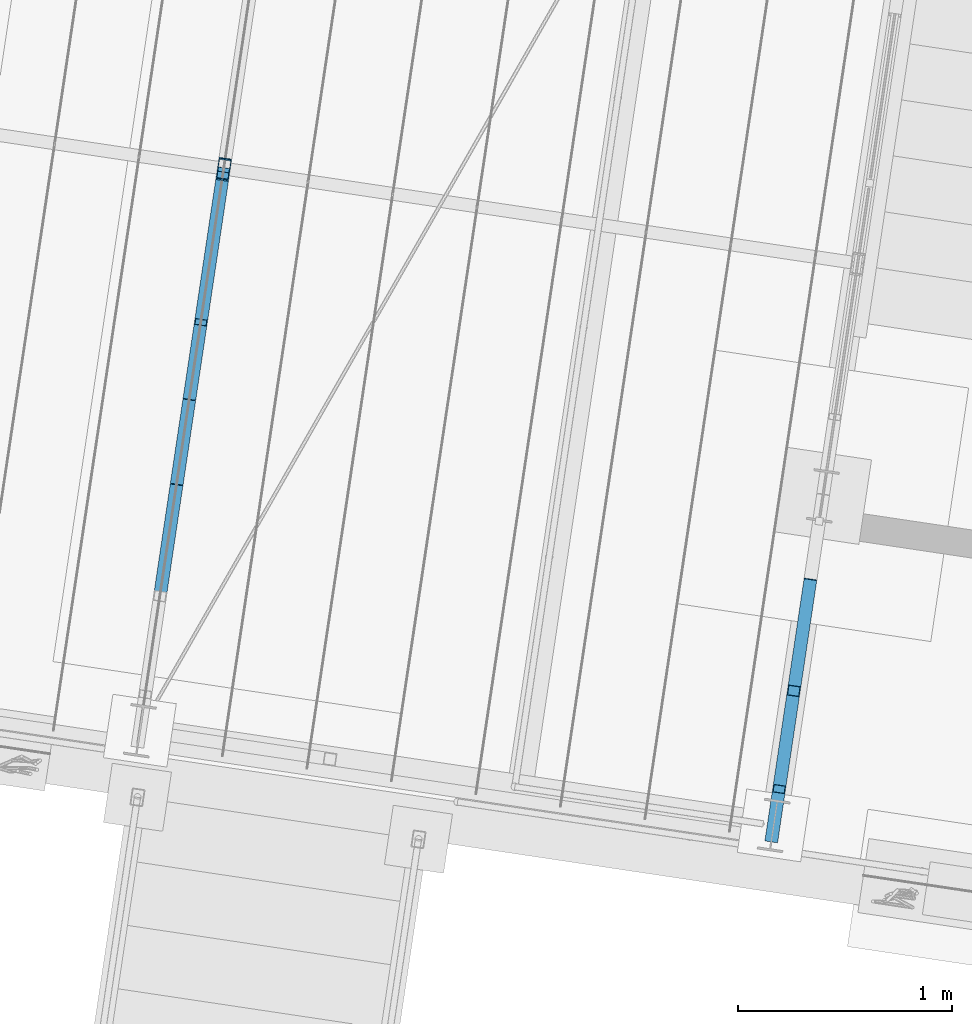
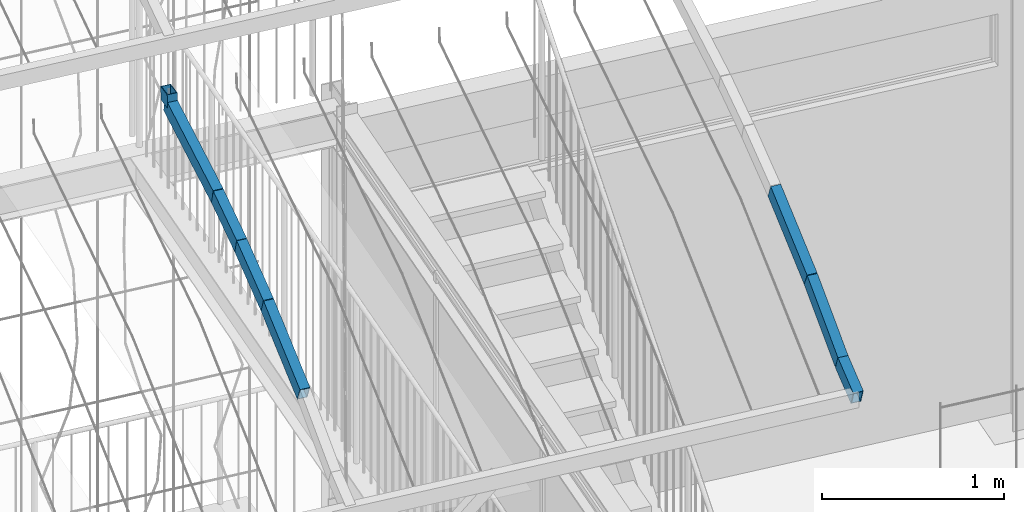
# One storey, part 104 of 142: 8 members, 1 element without a shape of its own.
"""IFC4 building model written with IfcOpenShell, lengths in metres."""

import ifcopenshell
import ifcopenshell.guid

model = None  # the IFC model being written
_history = None  # IfcOwnerHistory: only IFC2X3 demands one
_inside = {}  # id of a spatial element -> (the spatial element, [elements in it])
_under = {}  # id of a project, library or spatial element -> (it, [spatial elements below it])
_declared = {}  # id of a project -> (the project, [libraries it declares])
_typed = {}  # id of a type object -> (the type object, [elements of that type])
_made_of = {}  # id of a material, layer set ... -> (it, [elements and type objects made of it])


def new_model(schema):
    """Start an empty IFC model of exactly this schema.

    Asked for "IFC4X3", IfcOpenShell would pick the latest addendum, in which some entities
    have other attributes; the version numbers below select the first issue.
    IFC2X3 requires an IfcOwnerHistory on every rooted entity: one is made here for all.
    """
    global model, _history
    if schema == "IFC4X3":
        model = ifcopenshell.file(schema_version=(4, 3, 0, 0))
    else:
        model = ifcopenshell.file(schema=schema)
    _inside.clear()
    _under.clear()
    _declared.clear()
    _typed.clear()
    _made_of.clear()
    _history = None
    if model.schema == "IFC2X3":
        org = make("IfcOrganization", Name="unknown")
        user = make(
            "IfcPersonAndOrganization",
            ThePerson=make("IfcPerson", FamilyName="unknown"),
            TheOrganization=org,
        )
        app = make(
            "IfcApplication",
            ApplicationDeveloper=org,
            Version="unknown",
            ApplicationFullName="unknown",
            ApplicationIdentifier="unknown",
        )
        _history = make(
            "IfcOwnerHistory",
            OwningUser=user,
            OwningApplication=app,
            ChangeAction="ADDED",
            CreationDate=0,
        )
    return model


def make(cls, **values):
    """One entity of the class cls with the attributes given. An attribute that is None is left unset."""
    return model.create_entity(
        cls, **{name: value for name, value in values.items() if value is not None}
    )


def rooted(cls, **values):
    """An entity with a GlobalId (a new one), such as an element, a storey or a relation."""
    return make(cls, GlobalId=ifcopenshell.guid.new(), OwnerHistory=_history, **values)


def si_unit(unit_type, name, prefix=None):
    """IfcSIUnit, for example si_unit("LENGTHUNIT", "METRE", prefix="MILLI")."""
    return make("IfcSIUnit", UnitType=unit_type, Prefix=prefix, Name=name)


def assignment(units):
    """IfcUnitAssignment: the units of a project."""
    return None if units is None else make("IfcUnitAssignment", Units=units)


def point(xyz):
    """IfcCartesianPoint."""
    return None if xyz is None else make("IfcCartesianPoint", Coordinates=xyz)


def direction(xyz):
    """IfcDirection."""
    return None if xyz is None else make("IfcDirection", DirectionRatios=xyz)


def frame(location, z_axis=None, x_axis=None):
    """IfcAxis2Placement3D, a coordinate frame: its origin and axes. An axis left out is left unset."""
    return make(
        "IfcAxis2Placement3D",
        Location=point(location),
        Axis=direction(z_axis),
        RefDirection=direction(x_axis),
    )


def origin_with_axes():
    """The frame at (0, 0, 0) with the z axis (0, 0, 1) and the x axis (1, 0, 0) written out."""
    return frame((0.0, 0.0, 0.0), z_axis=(0.0, 0.0, 1.0), x_axis=(1.0, 0.0, 0.0))


def place(relative_to, where):
    """IfcLocalPlacement: puts the frame where relative to a parent placement (None: the world)."""
    return make(
        "IfcLocalPlacement", PlacementRelTo=relative_to, RelativePlacement=where
    )


def context(
    kind, dimensions, precision=None, world=None, true_north=None, identifier=None
):
    """IfcGeometricRepresentationContext, for example the 3D "Model" context."""
    return make(
        "IfcGeometricRepresentationContext",
        ContextIdentifier=identifier,
        ContextType=kind,
        CoordinateSpaceDimension=dimensions,
        Precision=precision,
        WorldCoordinateSystem=world,
        TrueNorth=true_north,
    )


def subcontext(parent, identifier, kind, view, scale=None):
    """IfcGeometricRepresentationSubContext, for example "Body" below "Model"."""
    return make(
        "IfcGeometricRepresentationSubContext",
        ContextIdentifier=identifier,
        ContextType=kind,
        ParentContext=parent,
        TargetScale=scale,
        TargetView=view,
    )


def project(units=None, contexts=None):
    """IfcProject with its units and contexts."""
    return rooted(
        "IfcProject",
        Name="project",
        RepresentationContexts=contexts,
        UnitsInContext=assignment(units),
    )


def spatial(cls, under=None, at=None, **own):
    """A site, building, storey or space (cls), placed at a placement, below another one or the project."""
    s = rooted(cls, ObjectPlacement=at, **own)
    if under is not None:
        _under.setdefault(under.id(), (under, []))[1].append(s)
    return s


def profile(cls, at=None, kind="AREA", **sizes):
    """A parametric profile (cls). Its sizes go by their IFC names, for example OverallWidth=200.0."""
    return make(cls, ProfileType=kind, Position=at, **sizes)


def hollow_rectangle(**sizes):
    """IfcRectangleHollowProfileDef."""
    return profile("IfcRectangleHollowProfileDef", **sizes)


def extrude(swept, where, along, depth):
    """IfcExtrudedAreaSolid: the profile swept, set in the frame where, extruded along a direction by depth."""
    return make(
        "IfcExtrudedAreaSolid",
        SweptArea=swept,
        Position=where,
        ExtrudedDirection=direction(along),
        Depth=depth,
    )


def shape(context_of_items, identifier, shape_type, items):
    """IfcShapeRepresentation: the items that make up one representation, for example the "Body"."""
    return make(
        "IfcShapeRepresentation",
        ContextOfItems=context_of_items,
        RepresentationIdentifier=identifier,
        RepresentationType=shape_type,
        Items=items,
    )


def material(Name=None, Category=None):
    """IfcMaterial."""
    return make("IfcMaterial", Name=Name, Category=Category)


def material_profile(
    of_material, cross_section, Name=None, Category=None, Priority=None
):
    """IfcMaterialProfile: a cross section and its material."""
    return make(
        "IfcMaterialProfile",
        Name=Name,
        Material=of_material,
        Profile=cross_section,
        Priority=Priority,
        Category=Category,
    )


def profile_set(profiles, Name=None, composite=None):
    """IfcMaterialProfileSet."""
    return make(
        "IfcMaterialProfileSet",
        Name=Name,
        MaterialProfiles=profiles,
        CompositeProfile=composite,
    )


def profile_usage(for_profile_set, cardinal=None, extent=None):
    """IfcMaterialProfileSetUsage: how a profile set lies along its element."""
    return make(
        "IfcMaterialProfileSetUsage",
        ForProfileSet=for_profile_set,
        CardinalPoint=cardinal,
        ReferenceExtent=extent,
    )


def made_of(thing, what):
    """Note that an element or type object is made of a material, layer set ...; save() writes the relation."""
    if what is not None:
        _made_of.setdefault(what.id(), (what, []))[1].append(thing)
    return thing


def type_object(cls, material=None, **own):
    """A type object (cls), such as IfcWallType, which elements share."""
    return made_of(rooted(cls, **own), material)


def element(
    cls,
    number,
    at=None,
    inside=None,
    cuts=None,
    type_object=None,
    material=None,
    context=None,
    identifier="Body",
    shape_type=None,
    held_by="IfcProductDefinitionShape",
    body=None,
    shapes=None,
    **own,
):
    """One element of the class cls, such as IfcWall. Its Tag is "e" and its number.

    at: its placement. inside: the storey or other place that contains it. cuts: it is an
    opening in that element (IfcRelVoidsElement). A single representation is given by context,
    identifier, shape_type and body (its items); several are given by shapes. held_by: the class
    of the entity that holds the representations. save() writes the other relations.
    """
    e = rooted(cls, Tag="e%d" % number, ObjectPlacement=at, **own)
    if body is not None:
        shapes = [shape(context, identifier, shape_type, body)]
    if shapes is not None:
        e.Representation = make(held_by, Representations=shapes)
    if inside is not None:
        _inside.setdefault(inside.id(), (inside, []))[1].append(e)
    if cuts is not None:
        rooted(
            "IfcRelVoidsElement", RelatingBuildingElement=cuts, RelatedOpeningElement=e
        )
    if type_object is not None:
        _typed.setdefault(type_object.id(), (type_object, []))[1].append(e)
    return made_of(e, material)


def aggregate(whole, parts):
    """IfcRelAggregates: a whole, such as a stair, and the parts it consists of."""
    return rooted("IfcRelAggregates", RelatingObject=whole, RelatedObjects=parts)


def save(model, path):
    """Write the relations noted so far, then the file.

    IfcRelAggregates (storeys below a building ...), IfcRelContainedInSpatialStructure (elements
    in a storey), IfcRelDefinesByType, IfcRelAssociatesMaterial and IfcRelDeclares: one each for
    every whole, place, type object, material and project.
    """
    for whole, parts in _under.values():
        aggregate(whole, parts)
    for where, things in _inside.values():
        rooted(
            "IfcRelContainedInSpatialStructure",
            RelatedElements=things,
            RelatingStructure=where,
        )
    for kind, things in _typed.values():
        rooted("IfcRelDefinesByType", RelatedObjects=things, RelatingType=kind)
    for what, things in _made_of.values():
        rooted("IfcRelAssociatesMaterial", RelatedObjects=things, RelatingMaterial=what)
    for by, libraries in _declared.values():
        rooted("IfcRelDeclares", RelatingContext=by, RelatedDefinitions=libraries)
    model.write(path)


model = new_model("IFC4")

# Units and contexts
model_context = context("Model", 3, precision=1e-05, world=origin_with_axes(), true_north=direction((0.0, 1.0)))
body_context = subcontext(model_context, "Body", "Model", "MODEL_VIEW")
ifc_project = project(units=[si_unit("VOLUMEUNIT", "CUBIC_METRE"), si_unit("LENGTHUNIT", "METRE"), si_unit("AREAUNIT", "SQUARE_METRE")], contexts=[model_context])

# Site, building, storey
site_placement = place(None, origin_with_axes())
site = spatial("IfcSite", under=ifc_project, at=site_placement, Name="Lares · Rua das Mercês · artigo 4771")
building_placement = place(site_placement, frame((12.0, 10.2, 13.9), z_axis=(0.0, 0.0, 1.0), x_axis=(0.989015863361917, -0.147809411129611, 0.0)))
building = spatial("IfcBuilding", under=site, at=building_placement, Name="Casa Sobreposta")
storey_placement = place(building_placement, origin_with_axes())
storey = spatial("IfcBuildingStorey", under=building, at=storey_placement, Name="00 · Habitação e estacionamento", Elevation=13.9)

# Assembly, members
assembly_placement = place(storey_placement, origin_with_axes())
assembly = element("IfcElementAssembly", 1, at=assembly_placement, inside=storey, Name="Pérgola · prolongamento da estufa 6 m", ObjectType="PERGOLA_GREENHOUSE_EXTENSION", PredefinedType="USERDEFINED")
ifc_material = material(Name="Aço pintado / Stahl lackiert", Category="steel")
ifc_material_profile = material_profile(ifc_material, hollow_rectangle(XDim=0.06, YDim=0.1, WallThickness=0.004))
ifc_profile_set = profile_set([ifc_material_profile], Name="RHS100x60x4")
ifc_profile_usage_1 = profile_usage(ifc_profile_set)
member_type = type_object("IfcMemberType", Name="RHS100x60x4 / steel", PredefinedType="NOTDEFINED", material=ifc_profile_set)
member_1_placement = place(assembly_placement, frame((-3.0, -0.803062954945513, 6.57613537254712), z_axis=(0.0, 0.915885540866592, 0.401439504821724), x_axis=(1.0, 0.0, 0.0)))
member_1 = element("IfcMember", 2, at=member_1_placement, type_object=member_type, material=ifc_profile_usage_1, Name="Pérgola · arco contínuo com a estufa", context=body_context, shape_type="SweptSolid", body=[
    extrude(hollow_rectangle(XDim=0.06, YDim=0.1, WallThickness=0.004), origin_with_axes(), (0.0, 0.0, 1.0), 0.596771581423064),
])
ifc_profile_usage_2 = profile_usage(ifc_profile_set)
member_2_placement = place(assembly_placement, frame((-3.0, -0.256488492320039, 6.81570306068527), z_axis=(0.0, 0.942820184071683, 0.333301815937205), x_axis=(1.0, 0.0, 0.0)))
member_2 = element("IfcMember", 3, at=member_2_placement, type_object=member_type, material=ifc_profile_usage_2, Name="Pérgola · arco contínuo com a estufa", context=body_context, shape_type="SweptSolid", body=[
    extrude(hollow_rectangle(XDim=0.06, YDim=0.1, WallThickness=0.004), origin_with_axes(), (0.0, 0.0, 1.0), 0.423025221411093),
])
ifc_profile_usage_3 = profile_usage(ifc_profile_set)
member_3_placement = place(assembly_placement, frame((-3.0, 0.142348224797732, 6.95669813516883), z_axis=(0.0, 0.959692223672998, 0.281053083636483), x_axis=(1.0, 0.0, 0.0)))
member_3 = element("IfcMember", 4, at=member_3_placement, type_object=member_type, material=ifc_profile_usage_3, Name="Pérgola · arco contínuo com a estufa", context=body_context, shape_type="SweptSolid", body=[
    extrude(hollow_rectangle(XDim=0.06, YDim=0.1, WallThickness=0.004), origin_with_axes(), (0.0, 0.0, 1.0), 0.365557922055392),
])
ifc_profile_usage_4 = profile_usage(ifc_profile_set)
member_4_placement = place(assembly_placement, frame((-3.0, 0.493171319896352, 7.05943931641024), z_axis=(0.0, 0.977995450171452, 0.208626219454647), x_axis=(1.0, 0.0, 0.0)))
member_4 = element("IfcMember", 5, at=member_4_placement, type_object=member_type, material=ifc_profile_usage_4, Name="Pérgola · arco contínuo com a estufa", context=body_context, shape_type="SweptSolid", body=[
    extrude(hollow_rectangle(XDim=0.06, YDim=0.1, WallThickness=0.004), origin_with_axes(), (0.0, 0.0, 1.0), 0.737465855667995),
])
ifc_profile_usage_5 = profile_usage(ifc_profile_set)
member_5_placement = place(assembly_placement, frame((-3.0, 1.21440957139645, 7.21329402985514), z_axis=(0.0, 0.0686229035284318, 0.997642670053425), x_axis=(1.0, 0.0, 0.0)))
member_5 = element("IfcMember", 6, at=member_5_placement, type_object=member_type, material=ifc_profile_usage_5, Name="Pérgola · arco contínuo com a estufa", context=body_context, shape_type="SweptSolid", body=[
    extrude(hollow_rectangle(XDim=0.06, YDim=0.1, WallThickness=0.004), origin_with_axes(), (0.0, 0.0, 1.0), 0.0875893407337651),
])
ifc_profile_usage_6 = profile_usage(ifc_profile_set)
member_6_placement = place(assembly_placement, frame((0.0, -1.5, 6.23430000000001), z_axis=(0.0, 0.932991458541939, 0.35989851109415), x_axis=(1.0, 0.0, 0.0)))
member_6 = element("IfcMember", 7, at=member_6_placement, type_object=member_type, material=ifc_profile_usage_6, Name="Pérgola · arco contínuo com a estufa", context=body_context, shape_type="SweptSolid", body=[
    extrude(hollow_rectangle(XDim=0.06, YDim=0.1, WallThickness=0.004), origin_with_axes(), (0.0, 0.0, 1.0), 0.249032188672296),
])
ifc_profile_usage_7 = profile_usage(ifc_profile_set)
member_7_placement = place(assembly_placement, frame((0.0, -1.26765509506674, 6.32392631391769), z_axis=(0.0, 0.878851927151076, 0.477094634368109), x_axis=(1.0, 0.0, 0.0)))
member_7 = element("IfcMember", 8, at=member_7_placement, type_object=member_type, material=ifc_profile_usage_7, Name="Pérgola · arco contínuo com a estufa", context=body_context, shape_type="SweptSolid", body=[
    extrude(hollow_rectangle(XDim=0.06, YDim=0.1, WallThickness=0.004), origin_with_axes(), (0.0, 0.0, 1.0), 0.52863528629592),
])
ifc_profile_usage_8 = profile_usage(ifc_profile_set)
member_8_placement = place(assembly_placement, frame((0.0, -0.803062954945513, 6.57613537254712), z_axis=(0.0, 0.915885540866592, 0.401439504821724), x_axis=(1.0, 0.0, 0.0)))
member_8 = element("IfcMember", 9, at=member_8_placement, type_object=member_type, material=ifc_profile_usage_8, Name="Pérgola · arco contínuo com a estufa", context=body_context, shape_type="SweptSolid", body=[
    extrude(hollow_rectangle(XDim=0.06, YDim=0.1, WallThickness=0.004), origin_with_axes(), (0.0, 0.0, 1.0), 0.596771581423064),
])
aggregate(assembly, [member_1, member_2, member_3, member_4, member_5, member_6, member_7, member_8])

save(model, "model.ifc")
